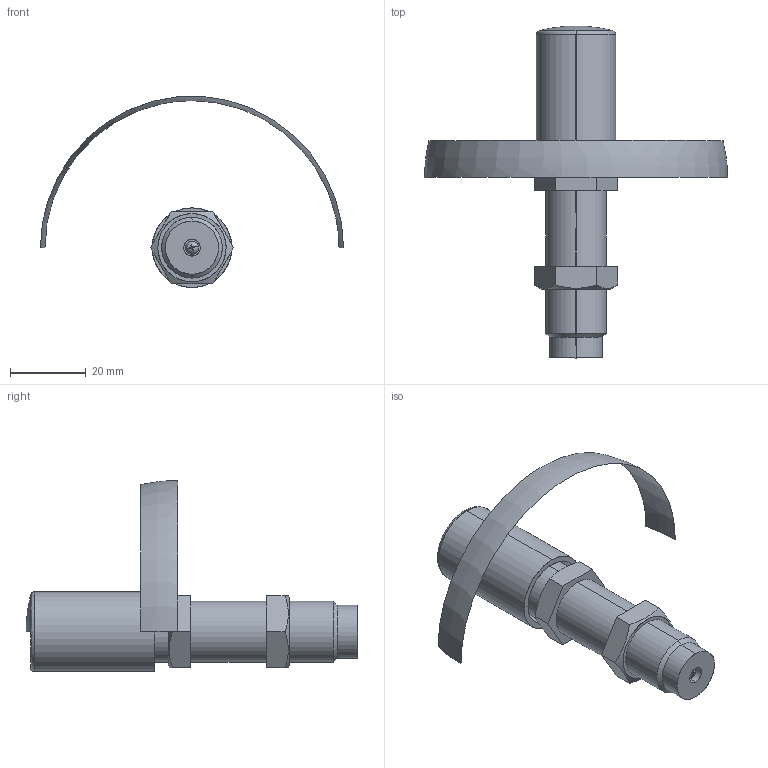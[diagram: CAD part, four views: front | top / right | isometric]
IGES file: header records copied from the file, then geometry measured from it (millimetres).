
Start section: SolidWorks IGES file using analytic representation for surfaces
Global section: file name: Y:\CAD\HP梡CAD僨乕僞\210305_HP峏怴梡\3D\FK-1612-C-060.IGS; native system: SolidWorks 2021; preprocessor: SolidWorks 2021; author: flgijutsu; date: 210310.160352; units: millimetre
Bounding box: 80 x 87.6 x 50.4 mm (x, y, z)
Surface area: 9345.8 mm2 (no closed solid volume)
Topology: 0 solids, 0 shells, 50 faces, 800 edges, 799 vertices
Faces by surface type: bspline 30, revolution 20
